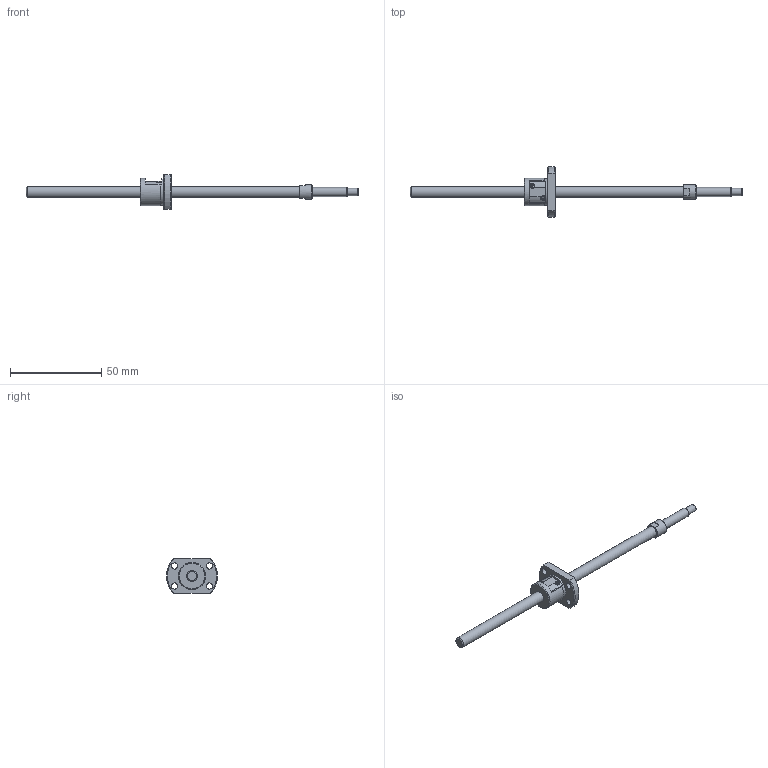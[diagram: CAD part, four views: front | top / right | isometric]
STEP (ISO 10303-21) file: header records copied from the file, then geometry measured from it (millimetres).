
FILE_DESCRIPTION(/* description */ ('STEP AP214'),/* implementation_level */ '2;1');
FILE_NAME(/* name */ 'SRT0602-146R182C7A0X(62.5Processing)',/* time_stamp */ '2026-08-04T17:55:09+02:00',/* author */ ('License CC BY-ND 4.0'),/* organization */ ('CADENAS'),/* preprocessor_version */ 'ST-DEVELOPER v20',/* originating_system */ 'PARTsolutions',/* authorisation */ ' ');
FILE_SCHEMA (('AUTOMOTIVE_DESIGN {1 0 10303 214 3 1 1}'));
Length unit declared in the file: millimetre
Products named in the file (3): SRT0602-146R182C7A0X(62.5Processing); SRT0602-146R220ACt7Processing17Shaft; SRT0602Nut
Assembly tree (2 placements, depth 2):
  SRT0602-146R182C7A0X(62.5Processing)
    SRT0602-146R220ACt7Processing17Shaft
    SRT0602Nut
Bounding box: 182 x 27.9 x 19 mm (x, y, z)
Volume: 8475.3 mm3; surface area: 5740.8 mm2
Topology: 2 solids, 2 shells, 67 faces, 159 edges, 102 vertices
Faces by surface type: plane 32, cone 17, cylinder 17, torus 1
Full cylindrical faces by diameter (mm): 2 x2, 3.4 x4, 4 x1, 5 x1, 6 x2, 8 x1, 14.5 x1, 15 x1
Entity records: 1865 total; most frequent: CARTESIAN_POINT 362, DIRECTION 310, ORIENTED_EDGE 254, AXIS2_PLACEMENT_3D 133, EDGE_CURVE 127, EDGE_LOOP 104, FACE_BOUND 104, VERTEX_POINT 91
